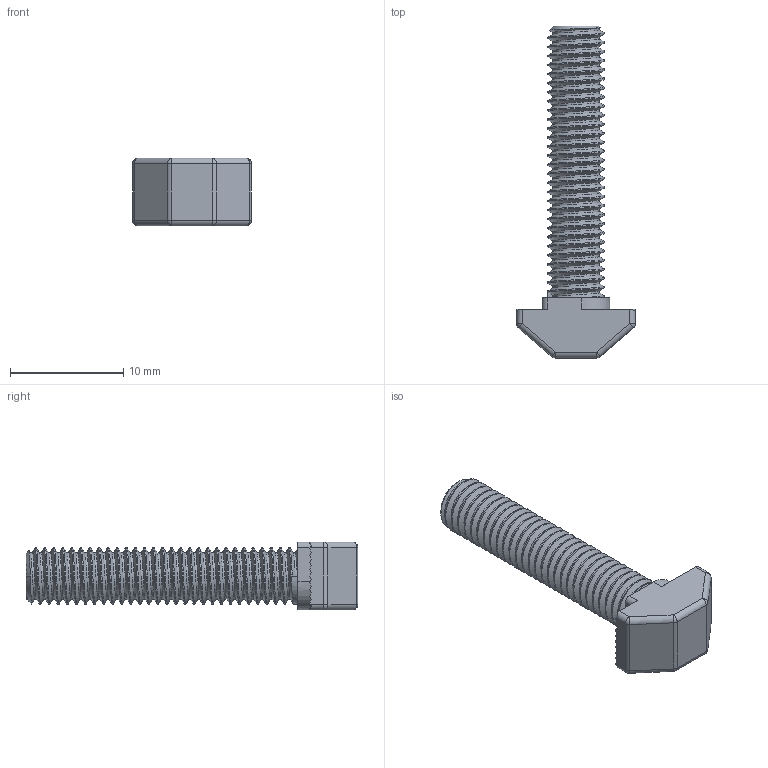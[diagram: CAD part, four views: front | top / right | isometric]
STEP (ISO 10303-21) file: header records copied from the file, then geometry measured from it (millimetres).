
FILE_DESCRIPTION (( 'STEP AP214' ), '1' );
FILE_NAME ('6-2-M5x25.STEP', '2018-12-28T15:29:32', ( '' ), ( '' ), 'SwSTEP 2.0', 'SolidWorks 2018', '' );
FILE_SCHEMA (( 'AUTOMOTIVE_DESIGN' ));
Length unit declared in the file: millimetre
Products named in the file (1): 6-2-M5x25
Bounding box: 10.5 x 29.3 x 6 mm (x, y, z)
Volume: 631.9 mm3; surface area: 796.7 mm2
Topology: 1 solids, 1 shells, 146 faces, 408 edges, 257 vertices
Faces by surface type: cylinder 78, plane 54, sphere 8, bspline 4, cone 2
Entity records: 9976 total; most frequent: CARTESIAN_POINT 6691, ORIENTED_EDGE 800, DIRECTION 568, EDGE_CURVE 400, VERTEX_POINT 257, VECTOR 210, LINE 210, AXIS2_PLACEMENT_3D 179
